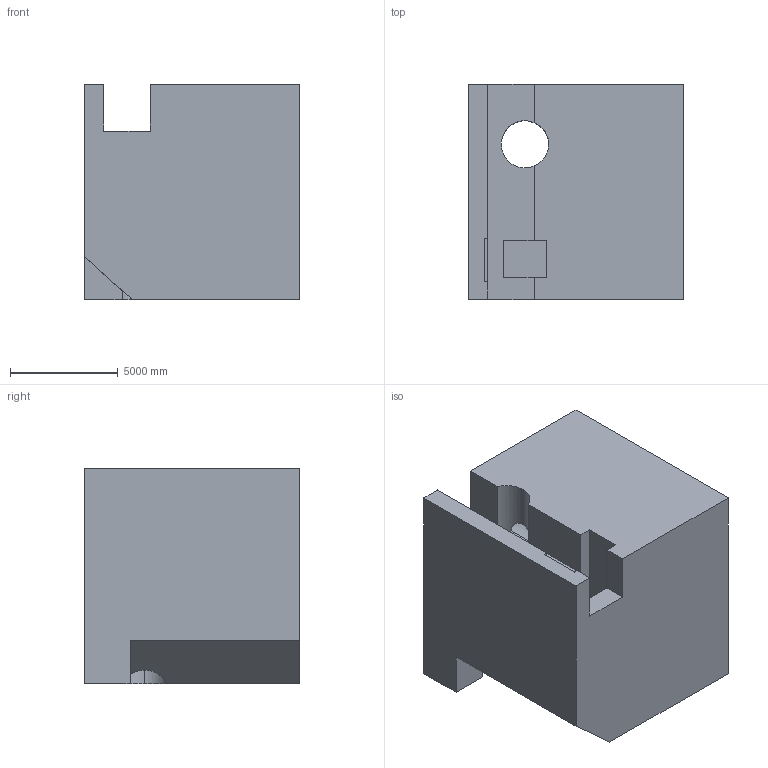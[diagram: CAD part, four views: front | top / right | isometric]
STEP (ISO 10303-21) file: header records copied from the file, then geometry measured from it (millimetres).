
FILE_DESCRIPTION (( 'STEP AP203' ), '1' );
FILE_NAME ('1891.STEP', '2022-08-19T14:01:25', ( 'user' ), ( '' ), 'SwSTEP 2.0', 'SolidWorks 2021', '' );
FILE_SCHEMA (( 'CONFIG_CONTROL_DESIGN' ));
Length unit declared in the file: centimetre
Products named in the file (1): 1891
Bounding box: 10000 x 10000 x 10000 mm (x, y, z)
Volume: 830051174398.1 mm3; surface area: 817665516.7 mm2
Topology: 1 solids, 1 shells, 45 faces, 126 edges, 84 vertices
Faces by surface type: plane 30, cylinder 15
Entity records: 2039 total; most frequent: CARTESIAN_POINT 773, ORIENTED_EDGE 252, DIRECTION 242, EDGE_CURVE 126, LINE 84, VERTEX_POINT 84, VECTOR 84, AXIS2_PLACEMENT_3D 79
